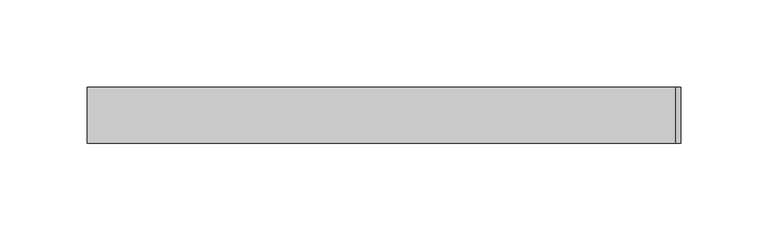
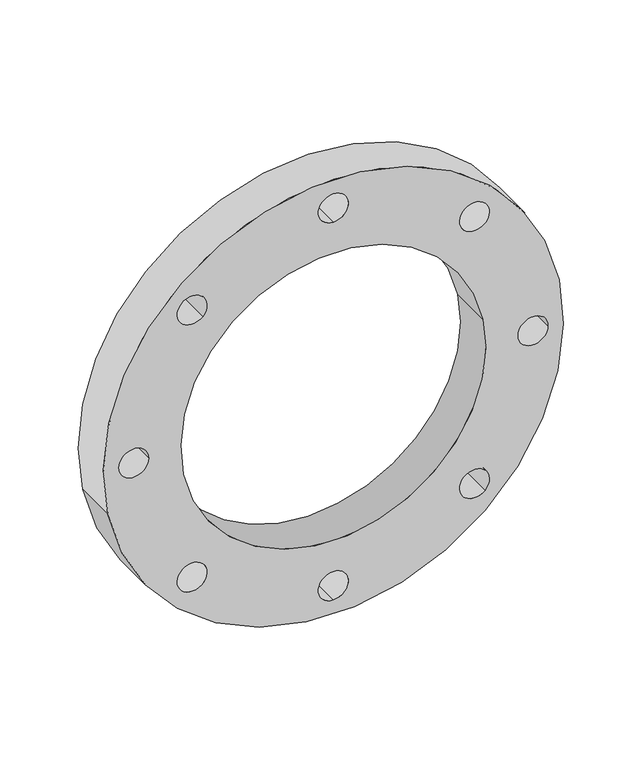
"""IFC4 building model written with IfcOpenShell, lengths in millimetres: pipe fitting geometry, 01051019 : Flange livre."""

from ifc_helpers import new_model, si_unit, point, frame, frame_2d, origin, origin_2d, place, context, project, spatial, circle_curve, trimmed, segment, composite_curve, outline, extrude, source, transform, mapped, element, save


def pipe_fitting_eaace3f6(model_context):
    return source(origin(), model_context, "Body", "SweptSolid", [
        extrude(outline(composite_curve([segment(trimmed(circle_curve(origin_2d(), 170.0), [point((-33.1653547, -166.7334977))], [point((33.1653547, 166.7334977))], False, "CARTESIAN"), True, "CONTINUOUS"), segment(trimmed(circle_curve(origin_2d(), 170.0), [point((33.1653547, 166.7334977))], [point((-33.1653547, -166.7334977))], False, "CARTESIAN"), True, "CONTINUOUS")], self_intersect=False), holes=[composite_curve([segment(trimmed(circle_curve(origin_2d(), 112.5), [point((-21.9476612, -110.338344))], [point((21.9476612, 110.338344))], True, "CARTESIAN"), True, "CONTINUOUS"), segment(trimmed(circle_curve(origin_2d(), 112.5), [point((21.9476612, 110.338344))], [point((-21.9476612, -110.338344))], True, "CARTESIAN"), True, "CONTINUOUS")], self_intersect=False), composite_curve([segment(trimmed(circle_curve(frame_2d((0.0, -147.5)), 11.0), [point((0.0, -136.5))], [point((0.0, -158.5))], True, "CARTESIAN"), True, "CONTINUOUS"), segment(trimmed(circle_curve(frame_2d((0.0, -147.5)), 11.0), [point((0.0, -158.5))], [point((0.0, -136.5))], True, "CARTESIAN"), True, "CONTINUOUS")], self_intersect=False), composite_curve([segment(trimmed(circle_curve(frame_2d((104.2982502, -104.2982502)), 11.0), [point((96.5200756, -96.5200756))], [point((112.0764248, -112.0764248))], True, "CARTESIAN"), True, "CONTINUOUS"), segment(trimmed(circle_curve(frame_2d((104.2982502, -104.2982502)), 11.0), [point((112.0764248, -112.0764248))], [point((96.5200756, -96.5200756))], True, "CARTESIAN"), True, "CONTINUOUS")], self_intersect=False), composite_curve([segment(trimmed(circle_curve(frame_2d((-104.2982502, -104.2982502)), 11.0), [point((-96.5200756, -96.5200756))], [point((-112.0764248, -112.0764248))], True, "CARTESIAN"), True, "CONTINUOUS"), segment(trimmed(circle_curve(frame_2d((-104.2982502, -104.2982502)), 11.0), [point((-112.0764248, -112.0764248))], [point((-96.5200756, -96.5200756))], True, "CARTESIAN"), True, "CONTINUOUS")], self_intersect=False), composite_curve([segment(trimmed(circle_curve(frame_2d((-147.5, 0.0)), 11.0), [point((-136.5, 0.0))], [point((-158.5, 0.0))], True, "CARTESIAN"), True, "CONTINUOUS"), segment(trimmed(circle_curve(frame_2d((-147.5, 0.0)), 11.0), [point((-158.5, 0.0))], [point((-136.5, 0.0))], True, "CARTESIAN"), True, "CONTINUOUS")], self_intersect=False), composite_curve([segment(trimmed(circle_curve(frame_2d((-104.2982502, 104.2982502)), 11.0), [point((-96.5200756, 96.5200756))], [point((-112.0764248, 112.0764248))], True, "CARTESIAN"), True, "CONTINUOUS"), segment(trimmed(circle_curve(frame_2d((-104.2982502, 104.2982502)), 11.0), [point((-112.0764248, 112.0764248))], [point((-96.5200756, 96.5200756))], True, "CARTESIAN"), True, "CONTINUOUS")], self_intersect=False), composite_curve([segment(trimmed(circle_curve(frame_2d((0.0, 147.5)), 11.0), [point((0.0, 136.5))], [point((0.0, 158.5))], True, "CARTESIAN"), True, "CONTINUOUS"), segment(trimmed(circle_curve(frame_2d((0.0, 147.5)), 11.0), [point((0.0, 158.5))], [point((0.0, 136.5))], True, "CARTESIAN"), True, "CONTINUOUS")], self_intersect=False), composite_curve([segment(trimmed(circle_curve(frame_2d((104.2982502, 104.2982502)), 11.0), [point((96.5200756, 96.5200756))], [point((112.0764248, 112.0764248))], True, "CARTESIAN"), True, "CONTINUOUS"), segment(trimmed(circle_curve(frame_2d((104.2982502, 104.2982502)), 11.0), [point((112.0764248, 112.0764248))], [point((96.5200756, 96.5200756))], True, "CARTESIAN"), True, "CONTINUOUS")], self_intersect=False), composite_curve([segment(trimmed(circle_curve(frame_2d((147.5, 0.0)), 11.0), [point((136.5, 0.0))], [point((158.5, 0.0))], True, "CARTESIAN"), True, "CONTINUOUS"), segment(trimmed(circle_curve(frame_2d((147.5, 0.0)), 11.0), [point((158.5, 0.0))], [point((136.5, 0.0))], True, "CARTESIAN"), True, "CONTINUOUS")], self_intersect=False)]), frame((0.0, -16.0, 0.0), z_axis=(0.0, 1.0, 0.0), x_axis=(0.0, 0.0, 1.0)), (0.0, 0.0, 1.0), 32.0),
    ])


if __name__ == "__main__":
    model = new_model("IFC4")
    model_context = context("Model", 3, world=origin())
    ifc_project = project(units=[si_unit("LENGTHUNIT", "METRE", prefix="MILLI")], contexts=[model_context])
    site = spatial("IfcSite", under=ifc_project)
    building = spatial("IfcBuilding", under=site)
    placement = place(None, origin())
    pipe_fitting_shape = pipe_fitting_eaace3f6(model_context)
    element("IfcPipeFitting", 1, ObjectType="01051019 : Flange livre", at=placement, inside=building, context=model_context, shape_type="MappedRepresentation", body=[
        mapped(pipe_fitting_shape, transform((0.0, 0.0, 0.0), x_axis=(1.0, 0.0, 0.0), y_axis=(0.0, 1.0, 0.0), z_axis=(0.0, 0.0, 1.0))),
    ])
    save(model, "model.ifc")
